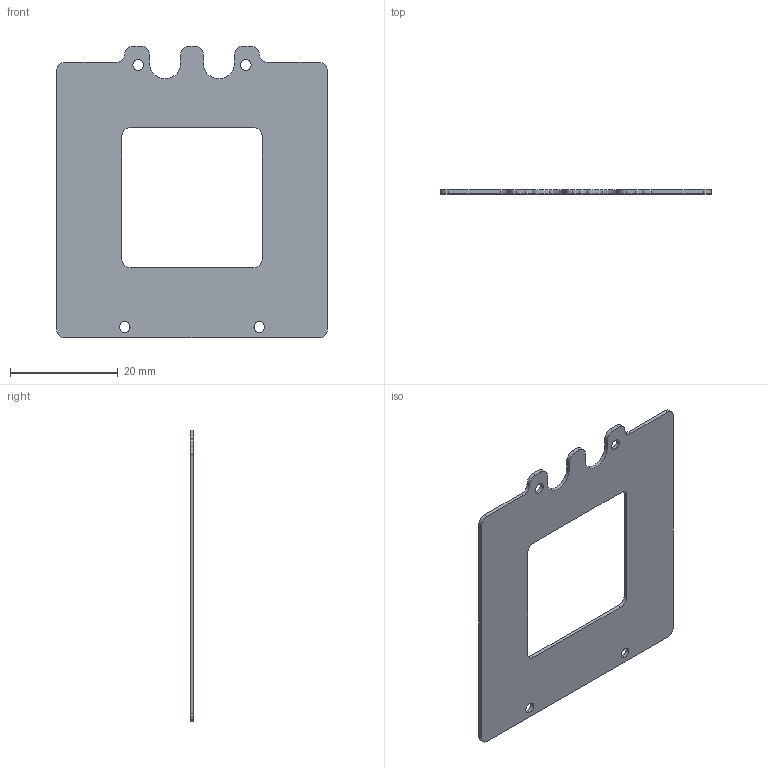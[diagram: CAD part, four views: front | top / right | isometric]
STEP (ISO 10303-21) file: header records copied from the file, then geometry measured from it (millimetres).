
FILE_DESCRIPTION (( 'STEP AP214' ), '1' );
FILE_NAME ('LSQF-XX-051-1-POLARIZER.STEP', '2021-11-05T02:10:28', ( '' ), ( '' ), 'SwSTEP 2.0', 'SolidWorks 2021', '' );
FILE_SCHEMA (( 'AUTOMOTIVE_DESIGN' ));
Length unit declared in the file: millimetre
Products named in the file (1): LSQF-XX-051-1-POLARIZER
Bounding box: 50.3 x 0.7 x 54.15 mm (x, y, z)
Volume: 1326.1 mm3; surface area: 4031.6 mm2
Topology: 1 solids, 1 shells, 46 faces, 132 edges, 88 vertices
Faces by surface type: cylinder 28, plane 18
Entity records: 1586 total; most frequent: DIRECTION 282, CARTESIAN_POINT 267, ORIENTED_EDGE 264, EDGE_CURVE 132, AXIS2_PLACEMENT_3D 103, VERTEX_POINT 88, VECTOR 76, LINE 76
